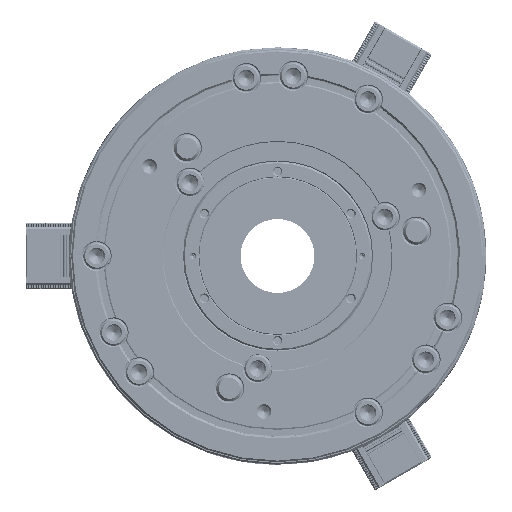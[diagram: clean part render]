
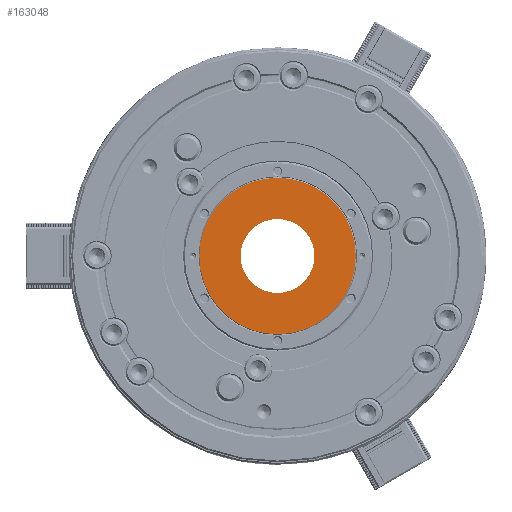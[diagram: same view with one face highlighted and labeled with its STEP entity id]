
A CAD part, left-side view. The second image highlights one B-rep face of the part: STEP entity #163048.
In plain terms, the highlighted planar face has unit normal (-1, 0, 0).
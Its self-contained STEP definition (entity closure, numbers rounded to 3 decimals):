
#3312 = CARTESIAN_POINT ( 'NONE',  ( -44., 0., 0. ) ) ;
#7870 = CARTESIAN_POINT ( 'NONE',  ( -44., 0., 47.6 ) ) ;
#16055 = DIRECTION ( 'NONE',  ( -1., 0., 0. ) ) ;
#20063 = EDGE_LOOP ( 'NONE', ( #148754, #223899 ) ) ;
#30440 = FACE_BOUND ( 'NONE', #20063, .T. ) ;
#32764 = EDGE_CURVE ( 'NONE', #225933, #98477, #130814, .T. ) ;
#33720 = CARTESIAN_POINT ( 'NONE',  ( -44., 0., 0. ) ) ;
#35579 = CIRCLE ( 'NONE', #72149, 22.5 ) ;
#38368 = AXIS2_PLACEMENT_3D ( 'NONE', #118892, #116614, #186649 ) ;
#43402 = CARTESIAN_POINT ( 'NONE',  ( -44., 0., 0. ) ) ;
#46524 = PLANE ( 'NONE',  #38368 ) ;
#48064 = CARTESIAN_POINT ( 'NONE',  ( -44., 0., -47.6 ) ) ;
#72149 = AXIS2_PLACEMENT_3D ( 'NONE', #33720, #173768, #210542 ) ;
#73375 = DIRECTION ( 'NONE',  ( 0., 0., 1. ) ) ;
#94258 = ORIENTED_EDGE ( 'NONE', *, *, #207286, .T. ) ;
#98477 = VERTEX_POINT ( 'NONE', #7870 ) ;
#113482 = DIRECTION ( 'NONE',  ( -1., 0., 0. ) ) ;
#113917 = AXIS2_PLACEMENT_3D ( 'NONE', #43402, #113482, #183494 ) ;
#115115 = AXIS2_PLACEMENT_3D ( 'NONE', #3312, #16055, #73375 ) ;
#116614 = DIRECTION ( 'NONE',  ( 1., 0., 0. ) ) ;
#118892 = CARTESIAN_POINT ( 'NONE',  ( -44., 47.6, 0. ) ) ;
#119616 = VERTEX_POINT ( 'NONE', #203525 ) ;
#124808 = CARTESIAN_POINT ( 'NONE',  ( -44., 0., 0. ) ) ;
#126003 = CARTESIAN_POINT ( 'NONE',  ( -44., 0., 22.5 ) ) ;
#127031 = DIRECTION ( 'NONE',  ( -1., 0., 0. ) ) ;
#130814 = CIRCLE ( 'NONE', #141862, 47.6 ) ;
#133830 = FACE_OUTER_BOUND ( 'NONE', #138042, .T. ) ;
#136015 = VERTEX_POINT ( 'NONE', #126003 ) ;
#138042 = EDGE_LOOP ( 'NONE', ( #226047, #94258 ) ) ;
#141862 = AXIS2_PLACEMENT_3D ( 'NONE', #124808, #127031, #197052 ) ;
#148754 = ORIENTED_EDGE ( 'NONE', *, *, #178590, .F. ) ;
#162285 = CIRCLE ( 'NONE', #115115, 47.6 ) ;
#163048 = ADVANCED_FACE ( 'NONE', ( #30440, #133830 ), #46524, .F. ) ;
#169463 = EDGE_CURVE ( 'NONE', #119616, #136015, #35579, .T. ) ;
#173768 = DIRECTION ( 'NONE',  ( -1., 0., 0. ) ) ;
#178590 = EDGE_CURVE ( 'NONE', #136015, #119616, #201928, .T. ) ;
#183494 = DIRECTION ( 'NONE',  ( 0., 0., 1. ) ) ;
#186649 = DIRECTION ( 'NONE',  ( 0., 0., -1. ) ) ;
#197052 = DIRECTION ( 'NONE',  ( 0., 0., 1. ) ) ;
#201928 = CIRCLE ( 'NONE', #113917, 22.5 ) ;
#203525 = CARTESIAN_POINT ( 'NONE',  ( -44., 0., -22.5 ) ) ;
#207286 = EDGE_CURVE ( 'NONE', #98477, #225933, #162285, .T. ) ;
#210542 = DIRECTION ( 'NONE',  ( 0., 0., 1. ) ) ;
#223899 = ORIENTED_EDGE ( 'NONE', *, *, #169463, .F. ) ;
#225933 = VERTEX_POINT ( 'NONE', #48064 ) ;
#226047 = ORIENTED_EDGE ( 'NONE', *, *, #32764, .T. ) ;
